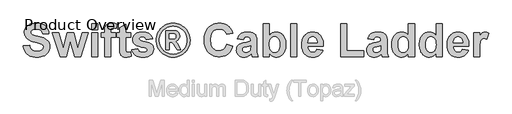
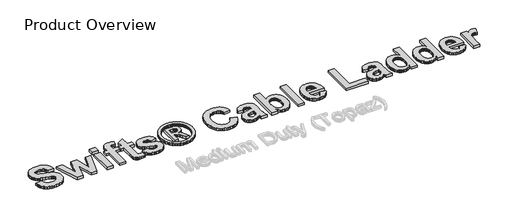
# One storey, part 12 of 12: 1 proxy.
"""IFC4 building model written with IfcOpenShell, lengths in millimetres."""

from ifc_helpers import new_model, si_unit, origin, origin_with_axes, place, context, project, spatial, polyline, outline, extrude, element, save

model = new_model("IFC4")

# Units and contexts
model_context = context("Model", 3, world=origin())
ifc_project = project(units=[si_unit("LENGTHUNIT", "METRE", prefix="MILLI")], contexts=[model_context])

# Site, building, storey
site = spatial("IfcSite", under=ifc_project)
building = spatial("IfcBuilding", under=site)
storey = spatial("IfcBuildingStorey", under=building, Name="Product Overview", Elevation=0.0)

# Proxy
placement = place(None, origin())
element("IfcBuildingElementProxy", 1, Name="2000mm Bold", ObjectType="2000mm Bold", at=placement, inside=storey, context=model_context, shape_type="SweptSolid", body=[
    extrude(outline(polyline([(-12506.384412, 258.8556104), (-12128.2025939, 290.370762), (-12105.3048666, 199.3338301), (-12090.3474802, 158.6626654), (-12073.0510787, 121.2230347), (-12053.415662, 87.0149381), (-12031.4412302, 56.0383756), (-12007.1277833, 28.2933472), (-11980.4753211, 3.7798529), (-11951.4453732, -17.6867665), (-11919.9994689, -36.2911699), (-11886.1376081, -52.0333574), (-11849.8597908, -64.913329), (-11811.1660172, -74.9310846), (-11770.056287, -82.0866244), (-11680.5889575, -87.8110562), (-11586.5667037, -82.7483195), (-11504.916609, -67.5601093), (-11468.7311213, -56.1689516), (-11435.6386734, -42.2464255), (-11405.6392653, -25.7925311), (-11378.7328969, -6.8072683), (-11334.353162, 35.4027222), (-11302.6533514, 81.0289059), (-11291.5584177, 105.1230702), (-11283.6334651, 130.0712828), (-11278.8784935, 155.8735437), (-11277.2935029, 182.5298529), (-11279.924895, 215.9685366), (-11287.8190711, 246.8527695), (-11300.9760314, 275.1825517), (-11319.3957757, 300.9578832), (-11344.4016942, 324.6404116), (-11377.3171772, 346.6917847), (-11418.1422245, 367.1120025), (-11466.8768363, 385.901065), (-11584.8124423, 418.7703832), (-11794.8313817, 470.1056104), (-11947.0520257, 511.1922582), (-12013.9755579, 533.5590906), (-12074.7745636, 557.1415953), (-12129.4490427, 581.9397724), (-12177.9989954, 607.9536218), (-12220.4244215, 635.1831436), (-12256.7253211, 663.6283377), (-12300.4664433, 705.6151985), (-12338.3754158, 749.8333567), (-12370.4522387, 796.2828121), (-12396.696912, 844.963565), (-12417.1094357, 895.8756152), (-12431.6898098, 949.0189627), (-12440.4380342, 1004.3936076), (-12443.354109, 1061.9995498), (-12437.9989954, 1136.3556104), (-12421.9336545, 1208.2495498), (-12395.1580863, 1277.681368), (-12357.6722908, 1344.651065), (-12310.0917984, 1406.4810839), (-12253.0321393, 1460.493868), (-12186.4933136, 1506.6894173), (-12110.4753211, 1545.0677317), (-12025.5629158, 1575.2287165), (-11932.3408514, 1596.7722771), (-11830.8091279, 1609.6984135), (-11720.9677454, 1614.0071256), (-11630.6579087, 1611.3218746), (-11546.1109745, 1603.2661218), (-11467.3269428, 1589.8398671), (-11394.3058136, 1571.0431104), (-11327.0475868, 1546.8758519), (-11265.5522624, 1517.3380915), (-11209.8198405, 1482.4298292), (-11159.8503211, 1442.151065), (-11115.5590688, 1397.3943178), (-11076.861448, 1349.0521067), (-11043.7574589, 1297.1244315), (-11016.2471014, 1241.6112923), (-10994.3303756, 1182.512689), (-10978.0072814, 1119.8286218), (-10967.2778188, 1053.5590906), (-10962.1419878, 983.7040953), (-11340.323806, 983.7040953), (-11357.4201601, 1053.9822676), (-11382.1183136, 1113.6425423), (-11414.4182662, 1162.6849192), (-11433.4189172, 1183.224396), (-11454.3200181, 1201.1093983), (-11503.4855011, 1230.0854873), (-11563.5766469, 1250.7826938), (-11634.5934556, 1263.2010176), (-11716.5359272, 1267.3404589), (-11801.9715333, 1262.9394173), (-11877.5586545, 1249.7362923), (-11943.2972908, 1227.7310839), (-11999.1874423, 1196.9237923), (-12028.0558136, 1172.3641332), (-12048.6760787, 1143.9881862), (-12061.0482378, 1111.7959514), (-12065.1722908, 1075.7874286), (-12061.417556, 1042.3333567), (-12050.1533514, 1011.4029589), (-12031.3796772, 982.9962354), (-12005.0965333, 957.1131862), (-11982.6104419, 941.4133164), (-11953.3150465, 925.5826464), (-11874.2963439, 893.5289059), (-11768.0404253, 860.9519646), (-11634.5472908, 827.8518226), (-11497.0224329, 794.0899854), (-11378.6713439, 759.5279589), (-11279.4940238, 724.165743), (-11199.4904726, 688.0033377), (-11132.8900939, 648.0708093), (-11073.9222908, 601.3982241), (-11022.5870636, 547.985582), (-10978.884412, 487.8328832), (-10943.9838439, 420.5861976), (-10919.0548666, 345.8915953), (-10904.0974802, 263.7490764), (-10899.1116848, 174.1586407), (-10905.0053874, 90.8158377), (-10922.6864954, 10.181368), (-10952.1550086, -67.7447683), (-10993.4109272, -142.9625714), (-11018.2091043, -178.7094937), (-11045.4540143, -212.0866244), (-11075.1456573, -243.0939634), (-11107.2840333, -271.7315108), (-11141.8691422, -297.9992665), (-11178.900984, -321.8972305), (-11218.3795588, -343.4254028), (-11260.3048666, -362.5837835), (-11351.9111639, -394.037382), (-11454.135359, -416.504238), (-11566.9774518, -429.9843517), (-11690.4374423, -434.4777229), (-11781.5205389, -431.7116836), (-11867.1561923, -423.4135657), (-11947.3444026, -409.5833692), (-12022.0851696, -390.2210941), (-12091.3784935, -365.3267404), (-12155.2243742, -334.9003081), (-12213.6228117, -298.9417972), (-12266.573806, -257.4512077), (-12314.2697103, -210.6593635), (-12356.9028779, -158.7970884), (-12394.4733088, -101.8643825), (-12426.9810029, -39.8612456), (-12454.4259603, 27.2123221), (-12476.808181, 99.3563207), (-12494.1276649, 176.5707501), (-12506.384412, 258.8556104)])), origin_with_axes(), (0.0, 0.0, 1.0), 150.0),
    extrude(outline(polyline([(-10281.6116848, -402.9625714), (-10741.5359272, 1046.7343983), (-10367.7859272, 1046.7343983), (-10095.4753211, 96.8480347), (-9840.8919878, 1046.7343983), (-9461.7253211, 1046.7343983), (-9213.0510787, 96.8480347), (-8939.7556242, 1046.7343983), (-8566.9904726, 1046.7343983), (-9025.9298666, -402.9625714), (-9397.2177454, -402.9625714), (-9654.2631999, 529.1965195), (-9904.9071393, -402.9625714), (-10281.6116848, -402.9625714)])), origin_with_axes(), (0.0, 0.0, 1.0), 150.0),
    extrude(outline(polyline([(-8377.8995636, 1235.8253074), (-8377.8995636, 1582.4919741), (-7999.7177454, 1582.4919741), (-7999.7177454, 1235.8253074), (-8377.8995636, 1235.8253074)])), origin_with_axes(), (0.0, 0.0, 1.0), 150.0),
    extrude(outline(polyline([(-8377.8995636, -402.9625714), (-8377.8995636, 1046.7343983), (-7999.7177454, 1046.7343983), (-7999.7177454, -402.9625714), (-8377.8995636, -402.9625714)])), origin_with_axes(), (0.0, 0.0, 1.0), 150.0),
    extrude(outline(polyline([(-7779.1116848, 1046.7343983), (-7590.0207757, 1046.7343983), (-7590.0207757, 1152.6056104), (-7587.6202075, 1235.6098718), (-7580.4185029, 1307.3499286), (-7568.415662, 1367.8257809), (-7551.6116848, 1417.0374286), (-7528.3754158, 1458.6011123), (-7497.0756999, 1496.1330726), (-7457.712537, 1529.6333093), (-7410.2859272, 1559.1018226), (-7355.4114007, 1583.1228926), (-7293.7044878, 1600.2807998), (-7225.1651886, 1610.5755442), (-7149.7935029, 1614.0071256), (-7069.4667984, 1611.0525801), (-6990.0018363, 1602.1889438), (-6911.3986166, 1587.4162165), (-6833.6571393, 1566.7343983), (-6880.9298666, 1309.1965195), (-6970.4279726, 1325.0772014), (-7056.7253211, 1330.370762), (-7095.1805768, 1328.0009703), (-7127.8190711, 1320.8915953), (-7154.6408041, 1309.042637), (-7175.6457757, 1292.4540953), (-7191.4802927, 1269.1254968), (-7202.790662, 1237.056368), (-7209.5768836, 1196.2467089), (-7211.8389575, 1146.6965195), (-7211.8389575, 1046.7343983), (-6928.2025939, 1046.7343983), (-6928.2025939, 763.0980347), (-7211.8389575, 763.0980347), (-7211.8389575, -402.9625714), (-7590.0207757, -402.9625714), (-7590.0207757, 763.0980347), (-7779.1116848, 763.0980347), (-7779.1116848, 1046.7343983)])), origin_with_axes(), (0.0, 0.0, 1.0), 150.0),
    extrude(outline(polyline([(-6014.2631999, 1046.7343983), (-6014.2631999, 763.0980347), (-6297.8995636, 763.0980347), (-6297.8995636, 141.1662165), (-6295.7452075, -8.099882), (-6289.2821393, -78.7012077), (-6275.1864954, -107.2618138), (-6250.134412, -130.4057532), (-6216.2802454, -145.7324577), (-6175.7783514, -150.8413593), (-6141.8010787, -148.5638971), (-6100.9298666, -141.7315108), (-5998.5056242, -114.4019653), (-5982.7480484, -383.2656017), (-6053.4417037, -405.6709047), (-6128.6287302, -421.6746926), (-6208.3091279, -431.2769653), (-6292.4828969, -434.4777229), (-6344.1258893, -432.2618138), (-6393.1836545, -425.6140865), (-6439.6561923, -414.5345411), (-6483.5435029, -399.0231774), (-6523.2913723, -380.0032911), (-6557.3455863, -358.3981774), (-6585.706145, -334.2078365), (-6608.3730484, -307.4322683), (-6626.7004632, -276.8711888), (-6642.042556, -241.3243138), (-6654.3993268, -200.7916433), (-6663.7707757, -155.2731774), (-6673.0037302, -52.4796168), (-6676.0813817, 119.9919741), (-6676.0813817, 763.0980347), (-6865.1722908, 763.0980347), (-6865.1722908, 1046.7343983), (-6676.0813817, 1046.7343983), (-6676.0813817, 1330.370762), (-6297.8995636, 1550.9768226), (-6297.8995636, 1046.7343983), (-6014.2631999, 1046.7343983)])), origin_with_axes(), (0.0, 0.0, 1.0), 150.0),
    extrude(outline(polyline([(-5951.2328969, 6.7343983), (-5573.0510787, 69.7647014), (-5558.1398571, 18.8603453), (-5537.042556, -25.5193896), (-5509.7591753, -63.3745032), (-5476.2897151, -94.7049956), (-5436.1109745, -119.2646547), (-5388.6997529, -136.8072683), (-5334.0560503, -147.3328365), (-5272.1798666, -150.8413593), (-5204.5023098, -147.4867191), (-5145.7499423, -137.4227986), (-5095.9227643, -120.6495979), (-5055.0207757, -97.1671168), (-5033.4772151, -76.8546168), (-5018.0889575, -53.3413593), (-5008.8560029, -26.6273441), (-5005.7783514, 3.2874286), (-5007.4095067, 23.7845877), (-5012.3029726, 42.4351559), (-5020.4587492, 59.2391332), (-5031.8768363, 74.1965195), (-5049.9426507, 87.4611976), (-5076.5643363, 100.1718983), (-5155.4753211, 123.931368), (-5358.5695446, 173.3584514), (-5520.7310029, 220.6927317), (-5641.9596961, 265.9342089), (-5687.2242558, 287.7701464), (-5722.2556242, 309.0828832), (-5761.1494452, 339.8055394), (-5794.8574234, 373.3750233), (-5823.3795588, 409.7913349), (-5846.7158514, 449.0544741), (-5864.8663012, 491.1644409), (-5877.8309083, 536.1212354), (-5885.6096725, 583.9248576), (-5888.2025939, 634.5753074), (-5885.9789906, 680.5477269), (-5879.308181, 724.6581673), (-5868.1901649, 766.9066284), (-5852.6249423, 807.2931104), (-5832.6125134, 845.8176133), (-5808.1528779, 882.480137), (-5779.2460361, 917.2806815), (-5745.8919878, 950.2192468), (-5707.8599092, 980.2263491), (-5664.9189764, 1006.2325044), (-5617.0691895, 1028.2377127), (-5564.3105484, 1046.2419741), (-5506.6430531, 1060.2452885), (-5444.0667037, 1070.2476559), (-5376.5815001, 1076.2490764), (-5304.1874423, 1078.2495498), (-5235.3172956, 1076.6337828), (-5171.0174613, 1071.7864817), (-5111.2879395, 1063.7076464), (-5056.1287302, 1052.3972771), (-5005.5398334, 1037.8553737), (-4959.5212492, 1020.0819362), (-4918.0729774, 999.0769646), (-4881.1950181, 974.8404589), (-4847.9486876, 947.4339722), (-4817.3953022, 916.9190574), (-4789.5348618, 883.2957146), (-4764.3673666, 846.5639438), (-4741.8928164, 806.7237449), (-4722.1112113, 763.775118), (-4705.0225512, 717.7180631), (-4690.6268363, 668.5525801), (-5068.8086545, 605.5222771), (-5080.5652833, 648.6401748), (-5096.6306242, 686.4029589), (-5117.0046772, 718.8106294), (-5141.6874423, 745.8631862), (-5171.3560029, 767.1913112), (-5206.6874423, 782.4256862), (-5247.6817605, 791.5663112), (-5294.3389575, 794.6131862), (-5352.6604537, 792.0279589), (-5402.0567605, 784.2722771), (-5442.5278779, 771.3461407), (-5474.073806, 753.2495498), (-5489.8006052, 737.368868), (-5501.0340333, 719.2722771), (-5507.7740901, 698.9597771), (-5510.0207757, 676.431368), (-5507.7740901, 657.196046), (-5501.0340333, 639.3764438), (-5489.8006052, 622.9725612), (-5474.073806, 607.9843983), (-5435.064573, 587.3333567), (-5366.2944499, 562.8044741), (-5267.7634367, 534.3977506), (-5139.4715333, 502.1131862), (-5007.1171298, 465.8892279), (-4896.3986166, 425.6643226), (-4849.1528188, 404.0515148), (-4807.3159935, 381.4384703), (-4770.8881407, 357.825189), (-4739.8692605, 333.211671), (-4713.5553401, 306.4745735), (-4690.7499423, 277.22919), (-4671.4530673, 245.4755205), (-4655.6647151, 211.213565), (-4643.3848855, 174.4433235), (-4634.6135787, 135.164796), (-4629.3507946, 93.3779826), (-4627.5965333, 49.0828832), (-4630.1394428, 0.3444244), (-4637.7681715, -46.6474672), (-4650.4827193, -91.8927915), (-4668.2830863, -135.3915486), (-4691.1692724, -177.1437385), (-4719.1412776, -217.1493611), (-4752.1991019, -255.4084165), (-4790.3427454, -291.9209047), (-4833.4721843, -325.332659), (-4881.487395, -354.2895127), (-4934.3883775, -378.7914658), (-4992.1751317, -398.8385183), (-5054.8476578, -414.4306703), (-5122.4059556, -425.5679218), (-5194.8500252, -432.2502726), (-5272.1798666, -434.4777229), (-5342.6773216, -432.6234379), (-5409.3969594, -427.0605827), (-5472.3387799, -417.7891576), (-5531.5027833, -404.8091623), (-5586.8889693, -388.1205969), (-5638.4973382, -367.7234615), (-5686.3278898, -343.617756), (-5730.3806242, -315.8034805), (-5770.7247885, -284.8038356), (-5807.4296298, -251.1420221), (-5840.4951483, -214.8180401), (-5869.9213439, -175.8318896), (-5895.7082165, -134.1835704), (-5917.8557662, -89.8730827), (-5936.363993, -42.9004265), (-5951.2328969, 6.7343983)])), origin_with_axes(), (0.0, 0.0, 1.0), 150.0),
    extrude(outline(polyline([(-3902.7480484, 6.7343983), (-3902.7480484, 1172.7950044), (-3689.5283514, 1172.7950044), (-3354.1874423, 1169.8404589), (-3304.1909935, 1163.2388964), (-3260.072859, 1153.2826938), (-3221.8330389, 1139.971851), (-3189.4715333, 1123.306368), (-3161.2648571, 1102.5476085), (-3135.4895257, 1076.9569362), (-3112.1455389, 1046.534351), (-3091.2328969, 1011.2798529), (-3073.9980484, 972.5937733), (-3061.6874423, 931.8764438), (-3054.3010787, 889.1278642), (-3051.8389575, 844.3480347), (-3056.40927, 783.5951938), (-3070.1202075, 727.3972771), (-3092.97177, 675.7542847), (-3124.9639575, 628.6662165), (-3165.2350276, 588.1027695), (-3212.9232378, 556.0336407), (-3268.0285882, 532.4588301), (-3330.5510787, 517.3783377), (-3286.9099802, 496.3272014), (-3254.4715333, 473.5525801), (-3222.6486166, 439.3290953), (-3180.854109, 383.931368), (-3100.5889575, 242.1131862), (-2988.8086545, 6.7343983), (-3209.4147151, 6.7343983), (-3318.2404726, 193.3631862), (-3370.0219594, 278.9218983), (-3415.0633893, 346.9995498), (-3453.3647624, 397.5961407), (-3484.9260787, 430.711671), (-3515.0101223, 452.039796), (-3548.8796772, 467.274171), (-3586.5347435, 476.414796), (-3627.9753211, 479.461671), (-3682.1419878, 479.461671), (-3682.1419878, 6.7343983), (-3902.7480484, 6.7343983)]), holes=[polyline([(-3682.1419878, 668.5525801), (-3595.9677454, 668.5525801), (-3447.1325181, 672.430421), (-3398.8441658, 677.2777222), (-3367.9753211, 684.0639438), (-3346.9857378, 693.2968983), (-3328.3351696, 705.4843983), (-3312.0236166, 720.6264438), (-3298.0510787, 738.7230347), (-3286.8484272, 758.9585934), (-3278.8465333, 780.5175423), (-3274.0453969, 803.3998813), (-3272.4450181, 827.6056104), (-3274.0146204, 851.0727032), (-3278.7234272, 873.2164059), (-3286.5714386, 894.0367184), (-3297.5586545, 913.5336407), (-3311.4388628, 931.0300896), (-3327.9658514, 945.8489817), (-3347.1396204, 957.9903169), (-3368.9601696, 967.4540953), (-3400.5060976, 974.5634703), (-3448.8560029, 979.6415953), (-3595.9677454, 983.7040953), (-3682.1419878, 983.7040953), (-3682.1419878, 668.5525801)])]), origin_with_axes(), (0.0, 0.0, 1.0), 150.0),
    extrude(outline(polyline([(-3445.7783514, 1614.0071256), (-3380.2513036, 1611.9489461), (-3315.393645, 1605.7744078), (-3251.2053756, 1595.4835105), (-3187.6864954, 1581.0762544), (-3124.8370044, 1562.5526393), (-3062.6569026, 1539.9126654), (-3001.14619, 1513.1563325), (-2940.3048666, 1482.2836407), (-2881.4178519, 1447.5677317), (-2825.7700654, 1409.2817468), (-2773.3615072, 1367.4256862), (-2724.1921772, 1321.9995498), (-2678.2620754, 1273.0033377), (-2635.5712018, 1220.4370498), (-2596.1195565, 1164.3006862), (-2559.9071393, 1104.5942468), (-2527.4763865, 1042.7449925), (-2499.369734, 980.1801843), (-2475.5871819, 916.8998221), (-2456.1287302, 852.9039059), (-2440.9943789, 788.1924357), (-2430.1841279, 722.7654116), (-2423.6979774, 656.6228335), (-2421.5359272, 589.7647014), (-2423.6556597, 523.3028169), (-2430.0148571, 457.6103453), (-2440.6135195, 392.6872866), (-2455.4516469, 328.5336407), (-2474.5292392, 265.1494078), (-2497.8462965, 202.5345877), (-2525.4028188, 140.6891805), (-2557.198806, 79.6131862), (-2592.7879987, 20.5953713), (-2631.7241374, -35.0754975), (-2674.0072222, -87.3994203), (-2719.6372529, -136.3763971), (-2768.6142297, -182.0064279), (-2820.9381526, -224.2895127), (-2876.6090214, -263.2256514), (-2935.6268363, -298.8148441), (-2996.7028306, -330.6108313), (-3058.5482378, -358.1673536), (-3121.1630579, -381.4844109), (-3184.5472908, -400.5620032), (-3248.7009367, -415.4001306), (-3313.6239954, -425.998793), (-3379.316467, -432.3579904), (-3445.7783514, -434.4777229), (-3512.2402359, -432.3579904), (-3577.9327075, -425.998793), (-3642.8557662, -415.4001306), (-3707.009412, -400.5620032), (-3770.393645, -381.4844109), (-3833.0084651, -358.1673536), (-3894.8538723, -330.6108313), (-3955.9298666, -298.8148441), (-4014.9476815, -263.2256514), (-4070.6185503, -224.2895127), (-4122.9424731, -182.0064279), (-4171.9194499, -136.3763971), (-4217.5494807, -87.3994203), (-4259.8325654, -35.0754975), (-4298.7687042, 20.5953713), (-4334.3578969, 79.6131862), (-4366.1538841, 140.6891805), (-4393.7104064, 202.5345877), (-4417.0274636, 265.1494078), (-4436.105056, 328.5336407), (-4450.9431833, 392.6872866), (-4461.5418458, 457.6103453), (-4467.9010432, 523.3028169), (-4470.0207757, 589.7647014), (-4467.8587255, 656.6228335), (-4461.3725749, 722.7654116), (-4450.562324, 788.1924357), (-4435.4279726, 852.9039059), (-4415.9695209, 916.8998221), (-4392.1869689, 980.1801843), (-4364.0803164, 1042.7449925), (-4331.6495636, 1104.5942468), (-4295.4371464, 1164.3006862), (-4255.9855011, 1220.4370498), (-4213.2946275, 1273.0033377), (-4167.3645257, 1321.9995498), (-4118.1951957, 1367.4256862), (-4065.7866374, 1409.2817468), (-4010.138851, 1447.5677317), (-3951.2518363, 1482.2836407), (-3890.4105129, 1513.1563325), (-3828.8998003, 1539.9126654), (-3766.7196985, 1562.5526393), (-3703.8702075, 1581.0762544), (-3640.3513273, 1595.4835105), (-3576.1630579, 1605.7744078), (-3511.3053993, 1611.9489461), (-3445.7783514, 1614.0071256)]), holes=[polyline([(-3446.2707757, 1424.9162165), (-3499.6641824, 1423.2427435), (-3552.4959177, 1418.2223245), (-3604.7659816, 1409.8549594), (-3656.4743742, 1398.1406483), (-3707.6210953, 1383.0793912), (-3758.206145, 1364.6711881), (-3808.2295233, 1342.9160389), (-3857.6912302, 1317.8139438), (-3905.5679466, 1289.5803382), (-3950.8363533, 1258.4306578), (-3993.4964504, 1224.3649026), (-4033.5482378, 1187.3830726), (-4070.9917155, 1147.4851677), (-4105.8268836, 1104.6711881), (-4138.0537421, 1058.9411336), (-4167.6722908, 1010.2950044), (-4194.2170351, 959.8907667), (-4217.2224802, 908.886387), (-4236.6886261, 857.2818652), (-4252.6154726, 805.0772014), (-4265.00302, 752.2723955), (-4273.8512681, 698.8674476), (-4279.160217, 644.8623576), (-4280.9298666, 590.2571256), (-4279.2025347, 536.0404471), (-4274.0205389, 482.4623813), (-4265.3838794, 429.5229282), (-4253.292556, 377.2220877), (-4237.7465688, 325.55986), (-4218.7459177, 274.5362449), (-4196.2906029, 224.1512425), (-4170.3806242, 174.4048529), (-4141.3737586, 126.3319362), (-4109.6277833, 80.9673529), (-4075.142698, 38.3111029), (-4037.9185029, -1.6368138), (-3997.955198, -38.8763971), (-3955.2527833, -73.4076471), (-3909.8112586, -105.2305638), (-3861.6306242, -134.3451471), (-3811.7842108, -160.3705378), (-3761.3453495, -182.9258763), (-3710.3140404, -202.0111628), (-3658.6902833, -217.6263971), (-3606.4740782, -229.7715794), (-3553.6654253, -238.4467096), (-3500.2643244, -243.6517878), (-3446.2707757, -245.3868138), (-3392.0579442, -243.6517878), (-3338.4914196, -238.4467096), (-3285.5712018, -229.7715794), (-3233.2972908, -217.6263971), (-3181.6696867, -202.0111628), (-3130.6883893, -182.9258763), (-3080.3533988, -160.3705378), (-3030.6647151, -134.3451471), (-2982.6456573, -105.2305638), (-2937.3195446, -73.4076471), (-2894.686377, -38.8763971), (-2854.7461545, -1.6368138), (-2817.498877, 38.3111029), (-2782.9445446, 80.9673529), (-2751.0831573, 126.3319362), (-2721.9147151, 174.4048529), (-2695.8316185, 224.1512425), (-2673.2262681, 274.5362449), (-2654.0986639, 325.55986), (-2638.448806, 377.2220877), (-2626.2766942, 429.5229282), (-2617.5823287, 482.4623813), (-2612.3657094, 536.0404471), (-2610.6268363, 590.2571256), (-2612.3964859, 644.8623576), (-2617.7054348, 698.8674476), (-2626.5536829, 752.2723955), (-2638.9412302, 805.0772014), (-2654.8680768, 857.2818652), (-2674.3342226, 908.886387), (-2697.3396677, 959.8907667), (-2723.884412, 1010.2950044), (-2753.514502, 1058.9411336), (-2785.775984, 1104.6711881), (-2820.6688581, 1147.4851677), (-2858.1931242, 1187.3830726), (-2898.3487823, 1224.3649026), (-2941.1358325, 1258.4306578), (-2986.5542747, 1289.5803382), (-3034.604109, 1317.8139438), (-3084.2312397, 1342.9160389), (-3134.3815711, 1364.6711881), (-3185.0551033, 1383.0793912), (-3236.2518363, 1398.1406483), (-3287.97177, 1409.8549594), (-3340.2149045, 1418.2223245), (-3392.9812397, 1423.2427435), (-3446.2707757, 1424.9162165)])]), origin_with_axes(), (0.0, 0.0, 1.0), 150.0),
    extrude(outline(polyline([(-215.4753211, 353.401065), (162.7064971, 227.3404589), (138.446909, 150.0106175), (110.4787508, 77.8127601), (78.8020226, 10.7468865), (43.4167243, -51.1870032), (4.322856, -107.988909), (-38.4795825, -159.6588308), (-84.990591, -206.1967688), (-135.2101696, -247.6027229), (-189.0382946, -284.0151874), (-246.3749423, -315.5726566), (-307.2201128, -342.2751306), (-371.573806, -364.1226093), (-439.4360219, -381.1150927), (-510.8067605, -393.2525808), (-585.6860219, -400.5350737), (-664.073806, -402.9625714), (-760.9659698, -398.815436), (-853.4417037, -386.3740297), (-941.5010077, -365.6383526), (-1025.1438817, -336.6084047), (-1104.3703259, -299.284186), (-1179.1803401, -253.6656964), (-1249.5739243, -199.752936), (-1315.5510787, -137.5459047), (-1375.3344594, -68.144863), (-1427.1467226, 7.3499286), (-1470.9878685, 88.9384703), (-1506.8578969, 176.620762), (-1534.7568079, 270.3968036), (-1554.6846014, 370.2665953), (-1566.6412776, 476.230137), (-1570.6268363, 588.2874286), (-1566.606654, 706.6385176), (-1554.5461071, 818.1879968), (-1534.4451957, 922.9358661), (-1506.3039196, 1020.8821256), (-1470.122279, 1112.0267752), (-1425.9002738, 1196.369815), (-1373.637904, 1273.9112449), (-1313.3351696, 1344.651065), (-1246.4770375, 1407.7813917), (-1174.5484745, 1462.4943415), (-1097.5494807, 1508.7899144), (-1015.480056, 1546.6681104), (-928.3402004, 1576.1289296), (-836.1299139, 1597.1723718), (-738.8491966, 1609.7984371), (-636.4980484, 1614.0071256), (-547.0614954, 1610.5370735), (-461.9336545, 1600.1269173), (-381.1145257, 1582.7766568), (-304.604109, 1558.4862923), (-232.4024045, 1527.2558235), (-164.509412, 1489.0852506), (-100.9251317, 1443.9745735), (-41.6495636, 1391.9237923), (-8.6186687, 1357.3848481), (22.2732584, 1319.26044), (51.0262177, 1277.5505678), (77.6402092, 1232.2552317), (102.1152328, 1183.3744315), (124.4512887, 1130.9081673), (162.7064971, 1015.2192468), (-215.4753211, 952.1889438), (-239.3117321, 1021.4514911), (-255.0731549, 1053.1859253), (-273.3967226, 1082.9891332), (-294.2824352, 1110.8611147), (-317.7302927, 1136.8018699), (-372.3124423, 1182.8897014), (-435.2350276, 1219.8369078), (-504.5899045, 1246.2277695), (-580.377073, 1262.0622866), (-662.5965333, 1267.3404589), (-720.175546, 1264.9437378), (-774.9769783, 1257.7535745), (-827.0008301, 1245.7699689), (-876.2471014, 1228.992921), (-922.7157922, 1207.422431), (-966.4069026, 1181.0584987), (-1007.3204324, 1149.9011242), (-1045.4563817, 1113.9503074), (-1079.9068434, 1072.6366829), (-1109.7639101, 1025.3908851), (-1135.027582, 972.2129139), (-1155.697859, 913.1027695), (-1171.7747411, 848.0604518), (-1183.2582283, 777.0859608), (-1190.1483207, 700.1792965), (-1192.4450181, 617.3404589), (-1190.2175678, 529.5196729), (-1183.535217, 448.2542847), (-1172.3979655, 373.5442942), (-1156.8058136, 305.3897014), (-1136.758761, 243.7905063), (-1112.2568079, 188.7467089), (-1083.2999542, 140.2583093), (-1049.8881999, 98.3253074), (-1012.9063699, 62.0859608), (-973.2392889, 30.6785271), (-930.886957, 4.1030063), (-885.8493742, -17.6406017), (-838.1265404, -34.5522968), (-787.7184556, -46.632079), (-734.6251199, -53.8799483), (-678.8465333, -56.2959047), (-637.5944618, -54.7532319), (-597.7965806, -50.1252134), (-559.4528898, -42.4118493), (-522.5633893, -31.6131396), (-487.1280792, -17.7290842), (-453.1469594, -0.7596831), (-420.6200299, 19.2950636), (-389.5472908, 42.4351559), (-360.2749779, 68.8914177), (-333.1493268, 98.8946729), (-308.1703377, 132.4449215), (-285.3380105, 169.5421635), (-264.6523453, 210.1863988), (-246.113342, 254.3776275), (-215.4753211, 353.401065)])), origin_with_axes(), (0.0, 0.0, 1.0), 150.0),
    extrude(outline(polyline([(793.0095274, 605.5222771), (446.3428607, 668.5525801), (461.3810354, 719.0568415), (478.919802, 766.1756862), (498.9591604, 809.9091142), (521.4991107, 850.2571256), (546.5396528, 887.2197203), (574.0807868, 920.7968983), (604.1225127, 950.9886597), (636.6648304, 977.7950044), (672.5002352, 1001.3390385), (712.4212224, 1021.743868), (756.427792, 1039.009493), (804.519944, 1053.1359135), (856.6976784, 1064.1231294), (912.9609952, 1071.9711407), (973.3098943, 1076.6799476), (1037.7443758, 1078.2495498), (1150.9096221, 1074.4486502), (1248.6250577, 1063.0459514), (1330.8906827, 1044.0414532), (1366.2298162, 1031.6885295), (1397.7064971, 1017.4351559), (1452.427141, 984.9967089), (1498.4072546, 948.495762), (1535.646838, 907.932315), (1564.145891, 863.306368), (1585.2585804, 806.8776275), (1600.3390728, 730.9057998), (1609.3873683, 635.3908851), (1612.4034667, 520.3328832), (1612.4034667, 73.211671), (1617.3892622, -92.7352986), (1623.6215065, -156.8735562), (1632.3466486, -208.4549956), (1644.4879838, -254.5889918), (1660.9688077, -302.3849199), (1681.7891202, -351.8427797), (1706.9489213, -402.9625714), (1328.7671031, -402.9625714), (1293.3125577, -282.8110562), (1280.0171031, -235.0459047), (1231.9134099, -281.6877134), (1182.1477849, -322.1434426), (1130.7202281, -356.4130922), (1077.6307395, -384.4966623), (1022.817766, -406.3633763), (966.2197546, -421.9824577), (907.8367054, -431.3539066), (847.6686183, -434.4777229), (795.1754246, -432.5811201), (745.5367527, -426.8913119), (698.7526026, -417.4082982), (654.8229743, -404.132079), (613.7478678, -387.0626542), (575.527283, -366.200024), (540.1612201, -341.5441883), (507.6496789, -313.0951471), (478.5081661, -281.7531135), (453.2521883, -248.4183005), (431.8817456, -213.0907082), (414.396838, -175.7703365), (400.7974653, -136.4571855), (391.0836277, -95.1512551), (385.2553252, -51.8525453), (383.3125577, -6.5610562), (386.7749156, 53.0838301), (397.1619895, 109.4048529), (414.4737792, 162.402012), (438.7102849, 212.0753074), (469.1944232, 257.2860082), (505.2491107, 296.8953832), (546.8743474, 330.9034324), (594.0701334, 359.3101559), (649.5601902, 384.0852506), (716.0682395, 407.1984135), (793.5942811, 428.6496445), (882.1383152, 448.4389438), (999.4276145, 473.1524854), (1097.2046031, 497.0658377), (1175.4692811, 520.1790006), (1234.2216486, 542.4919741), (1234.2216486, 582.3783377), (1231.2824914, 635.6217089), (1222.4650198, 680.6169741), (1207.7692338, 717.3641332), (1187.1951334, 745.8631862), (1158.496033, 767.1913112), (1119.4252471, 782.4256862), (1069.9827755, 791.5663112), (1010.1686183, 794.6131862), (968.5279933, 791.9971824), (931.7500577, 784.149171), (899.8348114, 771.0691521), (872.7822546, 752.7571256), (849.3305501, 727.8589248), (828.2178607, 695.0203832), (809.4441864, 654.2415006), (793.0095274, 605.5222771)]), holes=[polyline([(1234.2216486, 258.8556104), (1147.1856637, 234.6652695), (1021.0019516, 206.4124286), (900.3580122, 176.3129968), (858.8712698, 161.4017752), (829.9413455, 146.5828832), (799.9957963, 121.3153642), (778.6061183, 92.7855347), (765.7723114, 60.9933945), (761.4943758, 25.9389438), (764.9259573, -8.7923536), (775.2207016, -41.0923062), (792.3786088, -70.9609142), (816.3996789, -98.3981774), (845.7143096, -121.3420695), (878.7528986, -137.7305638), (915.5154459, -147.5636604), (956.0019516, -150.8413593), (1002.9361372, -147.0250714), (1048.7008152, -135.5762077), (1093.2959857, -116.4947683), (1136.7216486, -89.7807532), (1165.959338, -65.3442002), (1189.6572546, -38.3224199), (1207.8153986, -8.7154123), (1220.4337698, 23.4768226), (1226.4659667, 50.3447203), (1230.7746789, 87.1226559), (1234.2216486, 190.4086407), (1234.2216486, 258.8556104)])]), origin_with_axes(), (0.0, 0.0, 1.0), 150.0),
    extrude(outline(polyline([(1990.5852849, -402.9625714), (1990.5852849, 1582.4919741), (2368.7671031, 1582.4919741), (2368.7671031, 879.8025801), (2413.1006732, 926.3135887), (2459.4347167, 966.6231294), (2507.7692338, 1000.7312023), (2558.1042243, 1028.6378074), (2610.4396883, 1050.3429447), (2664.7756258, 1065.8466142), (2721.1120368, 1075.1488159), (2779.4489213, 1078.2495498), (2842.8023777, 1075.2565337), (2903.3551713, 1066.2774854), (2961.107302, 1051.3124049), (3016.0587698, 1030.3612923), (3068.2095747, 1003.4241474), (3117.5597167, 970.5009703), (3164.1091959, 931.591761), (3207.8580122, 886.6965195), (3247.5597167, 836.1999523), (3281.9678607, 780.4867657), (3311.082444, 719.5569599), (3334.9034667, 653.4105347), (3353.4309289, 582.0474902), (3366.6648304, 505.4678264), (3374.6051713, 423.6715432), (3377.2519516, 336.6586407), (3374.6205596, 246.7373576), (3366.7263834, 162.1250233), (3353.5694232, 82.8216379), (3335.1496789, 8.8272014), (3311.4671505, -59.8582863), (3282.521838, -123.2348252), (3248.3137414, -181.3024151), (3208.8428607, -234.0610562), (3165.6172452, -281.0337125), (3120.144944, -321.7433479), (3072.4259573, -356.1899625), (3022.4602849, -384.3735562), (2970.247927, -406.2941291), (2915.7888834, -421.9516812), (2859.0831542, -431.3462125), (2800.1307395, -434.4777229), (2741.2398777, -430.6922115), (2682.7491107, -419.3356774), (2624.6584383, -400.4081206), (2566.9678607, -373.9095411), (2511.4624156, -339.9630449), (2459.927141, -298.691738), (2412.3620368, -250.0956206), (2368.7671031, -194.1746926), (2368.7671031, -402.9625714), (1990.5852849, -402.9625714)]), holes=[polyline([(2368.7671031, 349.461671), (2373.1373683, 241.0667847), (2386.2481637, 147.8139438), (2408.0994895, 69.7031483), (2422.3028512, 36.3260176), (2438.6913455, 6.7343983), (2464.0819705, -30.1974199), (2491.5038455, -62.2049956), (2520.9569705, -89.288329), (2552.4413455, -111.4474199), (2585.9569705, -128.6822683), (2621.5038455, -140.9928744), (2659.0819705, -148.379238), (2698.6913455, -150.8413593), (2729.2639663, -149.094792), (2758.6901618, -143.8550903), (2786.9699322, -135.1222541), (2814.1032774, -122.8962835), (2840.0901973, -107.1771784), (2864.9306921, -87.9649388), (2888.6247617, -65.2595647), (2911.1724061, -39.0610562), (2931.773436, -9.115507), (2949.6276618, 24.8309892), (2964.7350837, 62.7784324), (2977.0957016, 104.7268226), (2986.7095155, 150.6761597), (2993.5765255, 200.6264438), (2999.0701334, 312.5298529), (2993.5457489, 431.6195782), (2986.6402684, 484.4590077), (2976.9725955, 532.8281483), (2964.5427305, 576.7270001), (2949.3506732, 616.1555631), (2931.3964237, 651.1138372), (2910.6799819, 681.6018226), (2887.80149, 708.0888609), (2863.3610899, 731.0442942), (2837.3587816, 750.4681223), (2809.7945652, 766.3603453), (2780.6684407, 778.7209632), (2749.980408, 787.549976), (2717.7304672, 792.8473836), (2683.9186183, 794.6131862), (2650.7761585, 792.8897014), (2619.0571126, 787.7192468), (2588.7614805, 779.1018226), (2559.8892622, 767.0374286), (2532.4404578, 751.526065), (2506.4150671, 732.5677317), (2481.8130903, 710.1624286), (2458.6345274, 684.3101559), (2437.5718498, 654.9493604), (2419.3175292, 622.0184892), (2403.8715657, 585.5175423), (2391.2339592, 545.4465195), (2381.4047096, 501.805421), (2374.3838171, 454.5942468), (2368.7671031, 349.461671)])]), origin_with_axes(), (0.0, 0.0, 1.0), 150.0),
    extrude(outline(polyline([(3660.8883152, -402.9625714), (3660.8883152, 1582.4919741), (4039.0701334, 1582.4919741), (4039.0701334, -402.9625714), (3660.8883152, -402.9625714)])), origin_with_axes(), (0.0, 0.0, 1.0), 150.0),
    extrude(outline(polyline([(5236.645891, 38.2495498), (5614.8277092, -24.7807532), (5595.6847167, -73.3884118), (5573.9564971, -119.0030543), (5549.6430501, -161.6246808), (5522.7443758, -201.2532911), (5493.2604743, -237.8888853), (5461.1913455, -271.5314634), (5426.5369895, -302.1810254), (5389.2974061, -329.8375714), (5349.557231, -354.3626069), (5307.4010993, -375.6176377), (5262.8290113, -393.6026637), (5215.8409667, -408.317685), (5166.4369658, -419.7627016), (5114.6170084, -427.9377134), (5060.3810946, -432.8427205), (5003.7292243, -434.4777229), (4915.1159431, -430.6229644), (4832.4579175, -419.0586888), (4755.7551476, -399.7848962), (4685.0076334, -372.8015865), (4620.2153749, -338.1087598), (4561.3783721, -295.7064161), (4508.4966249, -245.5945553), (4461.5701334, -187.7731774), (4429.0239686, -136.784186), (4400.8172925, -82.5482721), (4376.950105, -25.065436), (4357.4224061, 35.6643226), (4342.2341959, 99.6410034), (4331.3854743, 166.8646067), (4324.8762414, 237.3351322), (4322.7064971, 311.0525801), (4325.5841012, 398.4886597), (4334.2169137, 481.0620498), (4348.6049346, 558.7727506), (4368.7481637, 631.620762), (4394.6466012, 699.6060839), (4426.3002471, 762.7287165), (4463.7091012, 820.9886597), (4506.8731637, 874.3859135), (4554.4382679, 922.1664532), (4605.0502471, 963.5762544), (4658.7091012, 998.6153169), (4715.4148304, 1027.2836407), (4775.1674346, 1049.581226), (4837.9669137, 1065.5080726), (4903.8132679, 1075.0641805), (4972.7064971, 1078.2495498), (5049.6554791, 1074.9795451), (5122.4342433, 1065.1695309), (5191.0427897, 1048.8195072), (5255.4811183, 1025.9294741), (5315.7492291, 996.4994315), (5371.8471221, 960.5293794), (5423.7747972, 918.0193178), (5471.5322546, 868.9692468), (5514.2269753, 813.1637307), (5550.9664402, 750.3873339), (5581.7506495, 680.6400565), (5606.5796031, 603.9218983), (5625.453301, 520.2328595), (5638.3717433, 429.57294), (5645.3349298, 331.9421398), (5646.3428607, 227.3404589), (4700.8883152, 227.3404589), (4707.9361372, 142.7050423), (4725.1402092, 68.0412165), (4737.5508389, 34.4486502), (4752.5005311, 3.3489817), (4769.9892859, -25.2577892), (4790.0171031, -51.3716623), (4835.2278039, -94.8896547), (4859.7951571, -111.9860089), (4885.6705122, -125.973935), (4912.8538692, -136.8534331), (4941.3452281, -144.6245032), (4971.1445889, -149.2871452), (5002.2519516, -150.8413593), (5043.6463645, -148.0406964), (5081.6553607, -139.6387077), (5116.2789402, -125.6353933), (5147.5171031, -106.0307532), (5175.2467433, -80.209257), (5199.3447546, -47.5553744), (5219.8111372, -8.0691055), (5236.645891, 38.2495498)]), holes=[polyline([(5268.1610425, 447.9465195), (5261.4209857, 527.7961881), (5245.1402092, 597.4588301), (5233.422051, 628.4700162), (5219.318713, 656.9344457), (5202.830195, 682.8521185), (5183.9564971, 706.2230347), (5141.6695652, 744.893726), (5095.0739213, 772.5156483), (5044.1695652, 789.0888017), (4988.9564971, 794.6131862), (4930.2964592, 788.7964248), (4902.9515255, 781.5254731), (4876.9299819, 771.3461407), (4828.8570652, 742.2623339), (4786.0777092, 701.5450044), (4767.3963645, 677.1161455), (4751.238694, 650.6098718), (4726.4943758, 591.3650801), (4711.8447546, 523.8106294), (4707.2898304, 447.9465195), (5268.1610425, 447.9465195)])]), origin_with_axes(), (0.0, 0.0, 1.0), 150.0),
    extrude(outline(polyline([(6686.3428607, -402.9625714), (6686.3428607, 1582.4919741), (7064.5246789, 1582.4919741), (7064.5246789, -56.2959047), (8073.0095274, -56.2959047), (8073.0095274, -402.9625714), (6686.3428607, -402.9625714)])), origin_with_axes(), (0.0, 0.0, 1.0), 150.0),
    extrude(outline(polyline([(8671.7974061, 605.5222771), (8325.1307395, 668.5525801), (8340.1689142, 719.0568415), (8357.7076808, 766.1756862), (8377.7470392, 809.9091142), (8400.2869895, 850.2571256), (8425.3275316, 887.2197203), (8452.8686656, 920.7968983), (8482.9103915, 950.9886597), (8515.4527092, 977.7950044), (8551.288114, 1001.3390385), (8591.2091012, 1021.743868), (8635.2156708, 1039.009493), (8683.3078228, 1053.1359135), (8735.4855572, 1064.1231294), (8791.7488739, 1071.9711407), (8852.0977731, 1076.6799476), (8916.5322546, 1078.2495498), (9029.6975008, 1074.4486502), (9127.4129364, 1063.0459514), (9209.6785614, 1044.0414532), (9245.017695, 1031.6885295), (9276.4943758, 1017.4351559), (9331.2150198, 984.9967089), (9377.1951334, 948.495762), (9414.4347167, 907.932315), (9442.9337698, 863.306368), (9464.0464592, 806.8776275), (9479.1269516, 730.9057998), (9488.1752471, 635.3908851), (9491.1913455, 520.3328832), (9491.1913455, 73.211671), (9496.177141, -92.7352986), (9502.4093853, -156.8735562), (9511.1345274, -208.4549956), (9523.2758626, -254.5889918), (9539.7566864, -302.3849199), (9560.5769989, -351.8427797), (9585.7368001, -402.9625714), (9207.5549819, -402.9625714), (9172.1004364, -282.8110562), (9158.8049819, -235.0459047), (9110.7012887, -281.6877134), (9060.9356637, -322.1434426), (9009.5081069, -356.4130922), (8956.4186183, -384.4966623), (8901.6056448, -406.3633763), (8845.0076334, -421.9824577), (8786.6245842, -431.3539066), (8726.4564971, -434.4777229), (8673.9633034, -432.5811201), (8624.3246315, -426.8913119), (8577.5404814, -417.4082982), (8533.6108531, -404.132079), (8492.5357466, -387.0626542), (8454.3151618, -366.200024), (8418.9490989, -341.5441883), (8386.4375577, -313.0951471), (8357.2960449, -281.7531135), (8332.0400671, -248.4183005), (8310.6696244, -213.0907082), (8293.1847167, -175.7703365), (8279.5853441, -136.4571855), (8269.8715065, -95.1512551), (8264.043204, -51.8525453), (8262.1004364, -6.5610562), (8265.5627944, 53.0838301), (8275.9498683, 109.4048529), (8293.261658, 162.402012), (8317.4981637, 212.0753074), (8347.982302, 257.2860082), (8384.0369895, 296.8953832), (8425.6622262, 330.9034324), (8472.8580122, 359.3101559), (8528.348069, 384.0852506), (8594.8561183, 407.1984135), (8672.3821599, 428.6496445), (8760.926194, 448.4389438), (8878.2154933, 473.1524854), (8975.9924819, 497.0658377), (9054.2571599, 520.1790006), (9113.0095274, 542.4919741), (9113.0095274, 582.3783377), (9110.0703702, 635.6217089), (9101.2528986, 680.6169741), (9086.5571126, 717.3641332), (9065.9830122, 745.8631862), (9037.2839118, 767.1913112), (8998.2131258, 782.4256862), (8948.7706542, 791.5663112), (8888.9564971, 794.6131862), (8847.3158721, 791.9971824), (8810.5379364, 784.149171), (8778.6226902, 771.0691521), (8751.5701334, 752.7571256), (8728.1184289, 727.8589248), (8707.0057395, 695.0203832), (8688.2320652, 654.2415006), (8671.7974061, 605.5222771)]), holes=[polyline([(9113.0095274, 258.8556104), (9025.9735425, 234.6652695), (8899.7898304, 206.4124286), (8779.145891, 176.3129968), (8737.6591486, 161.4017752), (8708.7292243, 146.5828832), (8678.7836751, 121.3153642), (8657.3939971, 92.7855347), (8644.5601902, 60.9933945), (8640.2822546, 25.9389438), (8643.7138361, -8.7923536), (8654.0085804, -41.0923062), (8671.1664876, -70.9609142), (8695.1875577, -98.3981774), (8724.5021883, -121.3420695), (8757.5407774, -137.7305638), (8794.3033247, -147.5636604), (8834.7898304, -150.8413593), (8881.724016, -147.0250714), (8927.488694, -135.5762077), (8972.0838645, -116.4947683), (9015.5095274, -89.7807532), (9044.7472167, -65.3442002), (9068.4451334, -38.3224199), (9086.6032774, -8.7154123), (9099.2216486, 23.4768226), (9105.2538455, 50.3447203), (9109.5625577, 87.1226559), (9113.0095274, 190.4086407), (9113.0095274, 258.8556104)])]), origin_with_axes(), (0.0, 0.0, 1.0), 150.0),
    extrude(outline(polyline([(11161.4943758, -402.9625714), (10783.3125577, -402.9625714), (10783.3125577, -194.1746926), (10739.0713171, -251.0958574), (10691.0445652, -300.2305638), (10639.232302, -341.5788119), (10583.6345274, -375.1406017), (10526.0362792, -401.1005922), (10468.2225955, -419.6434426), (10410.1934762, -430.7691528), (10351.9489213, -434.4777229), (10293.5543309, -431.3385183), (10237.2910141, -421.9209047), (10183.158971, -406.224882), (10131.1582016, -384.2504502), (10081.2887059, -355.9976093), (10033.5504838, -321.4663593), (9987.9435354, -280.6567002), (9944.4678607, -233.568632), (9904.7084502, -180.8561557), (9870.2502944, -123.1732721), (9841.0933934, -60.5199814), (9817.2377471, 7.1037165), (9798.6833555, 79.6978216), (9785.4302186, 157.2623339), (9777.4783365, 239.7972534), (9774.8277092, 327.3025801), (9777.4744895, 416.5083093), (9785.4148304, 500.2050423), (9798.6487319, 578.392779), (9817.176194, 651.0715195), (9840.9972167, 718.2412639), (9870.1118001, 779.902012), (9904.519944, 836.0537639), (9944.2216486, 886.6965195), (9987.9704649, 931.591761), (10034.519944, 970.5009703), (10083.8700861, 1003.4241474), (10136.020891, 1030.3612923), (10190.9723588, 1051.3124049), (10248.7244895, 1066.2774854), (10309.277283, 1075.2565337), (10372.6307395, 1078.2495498), (10430.9676239, 1075.1488159), (10487.3040349, 1065.8466142), (10541.6399724, 1050.3429447), (10593.9754364, 1028.6378074), (10644.310427, 1000.7312023), (10692.644944, 966.6231294), (10738.9789876, 926.3135887), (10783.3125577, 879.8025801), (10783.3125577, 1582.4919741), (11161.4943758, 1582.4919741), (11161.4943758, -402.9625714)]), holes=[polyline([(10153.0095274, 349.461671), (10156.9489213, 238.2968983), (10168.7671031, 143.6283377), (10188.4640728, 65.4559892), (10201.2671031, 32.5558945), (10216.0398304, 3.7798529), (10239.9454885, -32.4594937), (10266.1132205, -63.8669274), (10294.5430264, -90.4424483), (10325.2349061, -112.1860562), (10358.1888597, -129.0977513), (10393.4048872, -141.1775335), (10430.8829885, -148.4254028), (10470.6231637, -150.8413593), (10502.6307395, -149.0293919), (10533.4072546, -143.5934899), (10562.9527092, -134.5336533), (10591.2671031, -121.849882), (10618.3504364, -105.542176), (10644.2027092, -85.6105354), (10668.8239213, -62.0549601), (10692.2140728, -34.8754502), (10713.5652802, -4.0950879), (10732.0696599, 30.2630442), (10747.727212, 68.1989461), (10760.5379364, 109.712618), (10770.5018332, 154.8040598), (10777.6189024, 203.4732714), (10783.3125577, 311.5450044), (10777.7881732, 431.065601), (10770.8826926, 484.0743013), (10761.2150198, 532.5819362), (10748.7851547, 576.5885058), (10733.5930974, 616.0940101), (10715.6388479, 651.098449), (10694.9224061, 681.6018226), (10672.0439142, 708.0888609), (10647.6035141, 731.0442942), (10621.6012059, 750.4681223), (10594.0369895, 766.3603453), (10564.910865, 778.7209632), (10534.2228323, 787.549976), (10501.9728915, 792.8473836), (10468.1610425, 794.6131862), (10435.3532774, 792.866619), (10403.8996789, 787.6269173), (10373.8002471, 778.8940811), (10345.0549819, 766.6681104), (10317.6638834, 750.9490053), (10291.6269516, 731.7367657), (10266.9441864, 709.0313917), (10243.615588, 682.8328832), (10222.3797925, 653.1720167), (10203.9754364, 620.0795688), (10188.4025198, 583.5555394), (10175.6610425, 543.5999286), (10165.7510046, 500.2127364), (10158.6724061, 453.3939627), (10153.0095274, 349.461671)])]), origin_with_axes(), (0.0, 0.0, 1.0), 150.0),
    extrude(outline(polyline([(12831.7974061, -402.9625714), (12453.615588, -402.9625714), (12453.615588, -194.1746926), (12409.3743474, -251.0958574), (12361.3475955, -300.2305638), (12309.5353323, -341.5788119), (12253.9375577, -375.1406017), (12196.3393096, -401.1005922), (12138.5256258, -419.6434426), (12080.4965065, -430.7691528), (12022.2519516, -434.4777229), (11963.8573612, -431.3385183), (11907.5940444, -421.9209047), (11853.4620013, -406.224882), (11801.4612319, -384.2504502), (11751.5917362, -355.9976093), (11703.8535141, -321.4663593), (11658.2465657, -280.6567002), (11614.770891, -233.568632), (11575.0114805, -180.8561557), (11540.5533247, -123.1732721), (11511.3964237, -60.5199814), (11487.5407774, 7.1037165), (11468.9863858, 79.6978216), (11455.7332489, 157.2623339), (11447.7813668, 239.7972534), (11445.1307395, 327.3025801), (11447.7775198, 416.5083093), (11455.7178607, 500.2050423), (11468.9517622, 578.392779), (11487.4792243, 651.0715195), (11511.3002471, 718.2412639), (11540.4148304, 779.902012), (11574.8229743, 836.0537639), (11614.5246789, 886.6965195), (11658.2734952, 931.591761), (11704.8229743, 970.5009703), (11754.1731164, 1003.4241474), (11806.3239213, 1030.3612923), (11861.2753891, 1051.3124049), (11919.0275198, 1066.2774854), (11979.5803133, 1075.2565337), (12042.9337698, 1078.2495498), (12101.2706542, 1075.1488159), (12157.6070652, 1065.8466142), (12211.9430027, 1050.3429447), (12264.2784667, 1028.6378074), (12314.6134573, 1000.7312023), (12362.9479743, 966.6231294), (12409.2820179, 926.3135887), (12453.615588, 879.8025801), (12453.615588, 1582.4919741), (12831.7974061, 1582.4919741), (12831.7974061, -402.9625714)]), holes=[polyline([(11823.3125577, 349.461671), (11827.2519516, 238.2968983), (11839.0701334, 143.6283377), (11858.7671031, 65.4559892), (11871.5701334, 32.5558945), (11886.3428607, 3.7798529), (11910.2485188, -32.4594937), (11936.4162508, -63.8669274), (11964.8460567, -90.4424483), (11995.5379364, -112.1860562), (12028.49189, -129.0977513), (12063.7079175, -141.1775335), (12101.1860188, -148.4254028), (12140.926194, -150.8413593), (12172.9337698, -149.0293919), (12203.7102849, -143.5934899), (12233.2557395, -134.5336533), (12261.5701334, -121.849882), (12288.6534667, -105.542176), (12314.5057395, -85.6105354), (12339.1269516, -62.0549601), (12362.5171031, -34.8754502), (12383.8683105, -4.0950879), (12402.3726902, 30.2630442), (12418.0302423, 68.1989461), (12430.8409667, 109.712618), (12440.8048635, 154.8040598), (12447.9219327, 203.4732714), (12453.615588, 311.5450044), (12448.0912035, 431.065601), (12441.1857229, 484.0743013), (12431.5180501, 532.5819362), (12419.088185, 576.5885058), (12403.8961277, 616.0940101), (12385.9418782, 651.098449), (12365.2254364, 681.6018226), (12342.3469445, 708.0888609), (12317.9065444, 731.0442942), (12291.9042362, 750.4681223), (12264.3400198, 766.3603453), (12235.2138953, 778.7209632), (12204.5258626, 787.549976), (12172.2759218, 792.8473836), (12138.4640728, 794.6131862), (12105.6563077, 792.866619), (12074.2027092, 787.6269173), (12044.1032774, 778.8940811), (12015.3580122, 766.6681104), (11987.9669137, 750.9490053), (11961.9299819, 731.7367657), (11937.2472167, 709.0313917), (11913.9186183, 682.8328832), (11892.6828228, 653.1720167), (11874.2784667, 620.0795688), (11858.7055501, 583.5555394), (11845.9640728, 543.5999286), (11836.0540349, 500.2127364), (11828.9754364, 453.3939627), (11823.3125577, 349.461671)])]), origin_with_axes(), (0.0, 0.0, 1.0), 150.0),
    extrude(outline(polyline([(14029.3731637, 38.2495498), (14407.5549819, -24.7807532), (14388.4119895, -73.3884118), (14366.6837698, -119.0030543), (14342.3703228, -161.6246808), (14315.4716486, -201.2532911), (14285.9877471, -237.8888853), (14253.9186183, -271.5314634), (14219.2642622, -302.1810254), (14182.0246789, -329.8375714), (14142.2845037, -354.3626069), (14100.1283721, -375.6176377), (14055.556284, -393.6026637), (14008.5682395, -408.317685), (13959.1642385, -419.7627016), (13907.3442811, -427.9377134), (13853.1083673, -432.8427205), (13796.4564971, -434.4777229), (13707.8432158, -430.6229644), (13625.1851902, -419.0586888), (13548.4824203, -399.7848962), (13477.7349061, -372.8015865), (13412.9426476, -338.1087598), (13354.1056448, -295.7064161), (13301.2238976, -245.5945553), (13254.2974061, -187.7731774), (13221.7512414, -136.784186), (13193.5445652, -82.5482721), (13169.6773777, -25.065436), (13150.1496789, 35.6643226), (13134.9614686, 99.6410034), (13124.1127471, 166.8646067), (13117.6035141, 237.3351322), (13115.4337698, 311.0525801), (13118.3113739, 398.4886597), (13126.9441864, 481.0620498), (13141.3322073, 558.7727506), (13161.4754364, 631.620762), (13187.3738739, 699.6060839), (13219.0275198, 762.7287165), (13256.4363739, 820.9886597), (13299.6004364, 874.3859135), (13347.1655406, 922.1664532), (13397.7775198, 963.5762544), (13451.4363739, 998.6153169), (13508.1421031, 1027.2836407), (13567.8947073, 1049.581226), (13630.6941864, 1065.5080726), (13696.5405406, 1075.0641805), (13765.4337698, 1078.2495498), (13842.3827518, 1074.9795451), (13915.161516, 1065.1695309), (13983.7700624, 1048.8195072), (14048.208391, 1025.9294741), (14108.4765018, 996.4994315), (14164.5743948, 960.5293794), (14216.50207, 918.0193178), (14264.2595274, 868.9692468), (14306.954248, 813.1637307), (14343.693713, 750.3873339), (14374.4779222, 680.6400565), (14399.3068758, 603.9218983), (14418.1805738, 520.2328595), (14431.099016, 429.57294), (14438.0622025, 331.9421398), (14439.0701334, 227.3404589), (13493.615588, 227.3404589), (13500.6634099, 142.7050423), (13517.8674819, 68.0412165), (13530.2781116, 34.4486502), (13545.2278039, 3.3489817), (13562.7165586, -25.2577892), (13582.7443758, -51.3716623), (13627.9550766, -94.8896547), (13652.5224298, -111.9860089), (13678.3977849, -125.973935), (13705.5811419, -136.8534331), (13734.0725008, -144.6245032), (13763.8718616, -149.2871452), (13794.9792243, -150.8413593), (13836.3736372, -148.0406964), (13874.3826334, -139.6387077), (13909.006213, -125.6353933), (13940.2443758, -106.0307532), (13967.974016, -80.209257), (13992.0720274, -47.5553744), (14012.5384099, -8.0691055), (14029.3731637, 38.2495498)]), holes=[polyline([(14060.8883152, 447.9465195), (14054.1482584, 527.7961881), (14037.8674819, 597.4588301), (14026.1493238, 628.4700162), (14012.0459857, 656.9344457), (13995.5574677, 682.8521185), (13976.6837698, 706.2230347), (13934.396838, 744.893726), (13887.801194, 772.5156483), (13836.896838, 789.0888017), (13781.6837698, 794.6131862), (13723.0237319, 788.7964248), (13695.6787982, 781.5254731), (13669.6572546, 771.3461407), (13621.584338, 742.2623339), (13578.8049819, 701.5450044), (13560.1236372, 677.1161455), (13543.9659667, 650.6098718), (13519.2216486, 591.3650801), (13504.5720274, 523.8106294), (13500.0171031, 447.9465195), (14060.8883152, 447.9465195)])]), origin_with_axes(), (0.0, 0.0, 1.0), 150.0),
    extrude(outline(polyline([(15100.8883152, -402.9625714), (14722.7064971, -402.9625714), (14722.7064971, 1046.7343983), (15100.8883152, 1046.7343983), (15100.8883152, 844.8404589), (15141.9134099, 910.3482714), (15180.7841486, 963.5762544), (15217.5005311, 1004.5244078), (15252.0625577, 1033.1927317), (15286.7169137, 1052.9050896), (15323.7102849, 1066.9853453), (15363.0426713, 1075.4334987), (15404.7140728, 1078.2495498), (15464.2666296, 1073.2637544), (15522.7727849, 1058.306368), (15580.2325387, 1033.3773907), (15636.645891, 998.4768226), (15526.3428607, 638.5147014), (15479.9318758, 665.4441521), (15435.2443758, 684.6794741), (15392.2803607, 696.2206673), (15351.0398304, 700.0677317), (15313.1693285, 697.3747866), (15278.3457016, 689.2959514), (15246.5689497, 675.831226), (15217.8390728, 656.9806104), (15192.0791296, 631.1129495), (15169.2121789, 596.5970877), (15149.2382205, 553.4330252), (15132.1572546, 501.620762), (15118.4770936, 430.0961407), (15108.7055501, 327.7950044), (15102.8426239, 194.7173529), (15100.8883152, 30.8631862), (15100.8883152, -402.9625714)])), origin_with_axes(), (0.0, 0.0, 1.0), 150.0),
])

save(model, "model.ifc")
